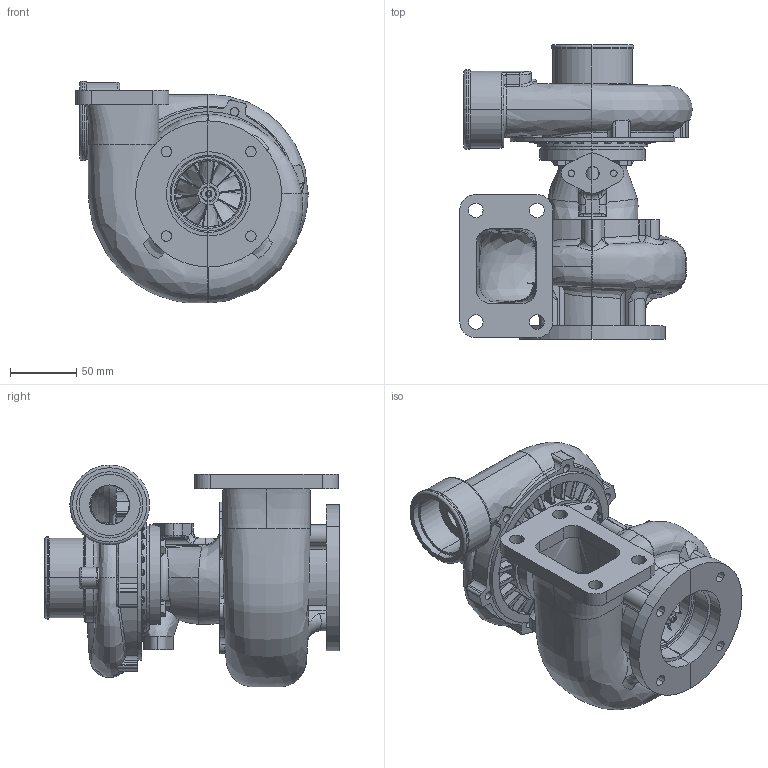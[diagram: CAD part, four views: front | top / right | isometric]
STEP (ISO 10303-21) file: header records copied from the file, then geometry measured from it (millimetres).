
FILE_DESCRIPTION(('STEP AP214'),'1');
FILE_NAME('C:/Users/E0092505/Desktop/TURBO1.stp','2012-10-29T19:14:06',(' '),(' '),'Spatial InterOp 3D',' ',' ');
FILE_SCHEMA(('automotive_design'));
Length unit declared in the file: millimetre
Products named in the file (19): TURBO1; Component1; Component2; Component3; Component4; Component5; Component6; Component7; Component8; Component9; Component10; Component11; Component12; 1-1-solid1; Component13; bearing_asm_small; HOUSING_5; GROUND_5; COIL_3
Assembly tree (25 placements, depth 3):
  TURBO1
    Component1
    Component2
    Component3
    Component4
    Component5
    Component6
    Component7
    Component8
    Component9
    Component10
    Component11
    Component12
      1-1-solid1
    Component13
    bearing_asm_small
      HOUSING_5
      GROUND_5
      COIL_3  x8
Bounding box: 175 x 222 x 167.13 mm (x, y, z)
Volume: 1151187.4 mm3; surface area: 420343.5 mm2
Topology: 33 solids, 33 shells, 2336 faces, 6206 edges, 3943 vertices
Faces by surface type: cylinder 891, plane 605, bspline 455, torus 294, cone 86, sphere 5
Entity records: 345440 total; most frequent: CARTESIAN_POINT 274019, ORIENTED_EDGE 11886, DIRECTION 10342, EDGE_CURVE 5943, AXIS2_PLACEMENT_3D 4161, VERTEX_POINT 3775, EDGE_LOOP 2306, CIRCLE 2283
